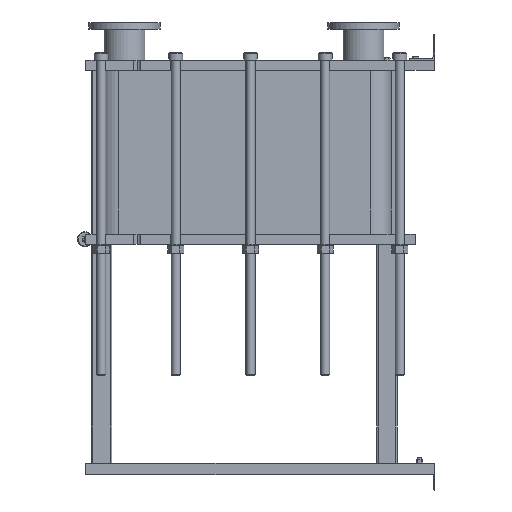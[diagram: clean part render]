
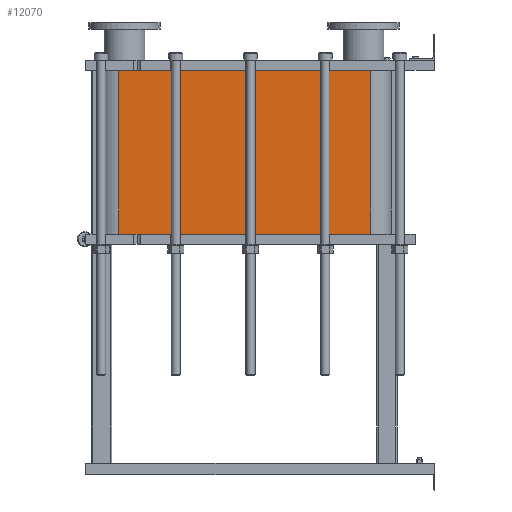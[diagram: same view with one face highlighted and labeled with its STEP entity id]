
A CAD part, left-side view. The second image highlights one B-rep face of the part: STEP entity #12070.
In plain terms, the highlighted planar face has unit normal (-1, 0, 0).
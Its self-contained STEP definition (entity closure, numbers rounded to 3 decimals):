
#1064=LINE('',#21140,#2164);
#1065=LINE('',#21144,#2165);
#1066=LINE('',#21146,#2166);
#1067=LINE('',#21147,#2167);
#2164=VECTOR('',#15790,10.);
#2165=VECTOR('',#15795,10.);
#2166=VECTOR('',#15796,10.);
#2167=VECTOR('',#15797,10.);
#3304=FACE_OUTER_BOUND('',#4091,.T.);
#4091=EDGE_LOOP('',(#9793,#9794,#9795,#9796));
#5677=VERTEX_POINT('',#21137);
#5678=VERTEX_POINT('',#21139);
#5679=VERTEX_POINT('',#21143);
#5680=VERTEX_POINT('',#21145);
#7118=EDGE_CURVE('',#5678,#5677,#1064,.T.);
#7120=EDGE_CURVE('',#5677,#5679,#1065,.T.);
#7121=EDGE_CURVE('',#5680,#5679,#1066,.T.);
#7122=EDGE_CURVE('',#5680,#5678,#1067,.T.);
#9793=ORIENTED_EDGE('',*,*,#7120,.T.);
#9794=ORIENTED_EDGE('',*,*,#7121,.F.);
#9795=ORIENTED_EDGE('',*,*,#7122,.T.);
#9796=ORIENTED_EDGE('',*,*,#7118,.T.);
#11441=PLANE('',#13191);
#12070=ADVANCED_FACE('',(#3304),#11441,.T.);
#13191=AXIS2_PLACEMENT_3D('',#21142,#15793,#15794);
#15790=DIRECTION('',(0.,0.,-1.));
#15793=DIRECTION('center_axis',(-1.,0.,0.));
#15794=DIRECTION('ref_axis',(0.,1.,0.));
#15795=DIRECTION('',(0.,-1.,0.));
#15796=DIRECTION('',(0.,0.,-1.));
#15797=DIRECTION('',(0.,1.,0.));
#21137=CARTESIAN_POINT('',(-248.152,1243.818,-645.15));
#21139=CARTESIAN_POINT('',(-248.152,1243.818,0.));
#21140=CARTESIAN_POINT('',(-248.152,1243.818,0.));
#21142=CARTESIAN_POINT('Origin',(-248.152,251.818,0.));
#21143=CARTESIAN_POINT('',(-248.152,251.818,-645.15));
#21144=CARTESIAN_POINT('',(-248.152,499.818,-645.15));
#21145=CARTESIAN_POINT('',(-248.152,251.818,0.));
#21146=CARTESIAN_POINT('',(-248.152,251.818,0.));
#21147=CARTESIAN_POINT('',(-248.152,251.818,0.));
